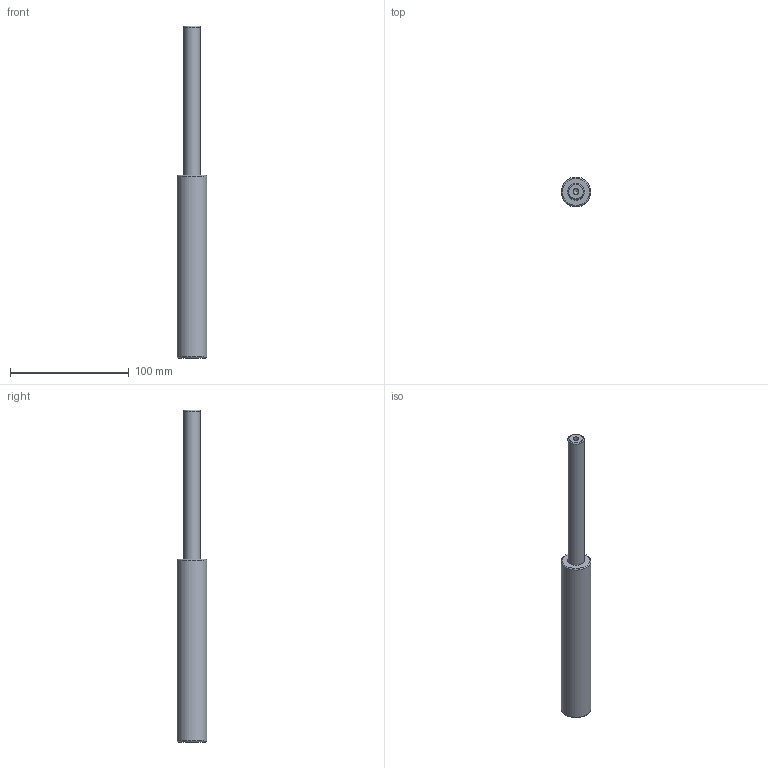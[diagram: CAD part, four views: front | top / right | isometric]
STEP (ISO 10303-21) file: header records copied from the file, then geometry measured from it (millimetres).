
FILE_DESCRIPTION(/* description */ (''),/* implementation_level */ '2;1');
FILE_NAME(/* name */ 'NV5-SMLX.25x125.stp',/* time_stamp */ '2018-08-31T16:08:38+02:00',/* author */ (''),/* organization */ (''),/* preprocessor_version */ 'ST-DEVELOPER v16',/* originating_system */ 'SIEMENS PLM Software NX 10.0',/* authorisation */ '');
FILE_SCHEMA (('AUTOMOTIVE_DESIGN { 1 0 10303 214 3 1 1 1 }'));
Length unit declared in the file: millimetre
Products named in the file (1): NV5-SMLX.25x125
Bounding box: 25 x 25 x 280 mm (x, y, z)
Volume: 94496.9 mm3; surface area: 18883.1 mm2
Topology: 1 solids, 1 shells, 12 faces, 24 edges, 15 vertices
Faces by surface type: cylinder 4, torus 3, plane 3, cone 2
Full cylindrical faces by diameter (mm): 5 x2, 14 x1, 25 x1
Entity records: 266 total; most frequent: DIRECTION 48, CARTESIAN_POINT 37, FACE_BOUND 24, AXIS2_PLACEMENT_3D 24, EDGE_LOOP 22, ORIENTED_EDGE 22, VERTEX_POINT 13, ADVANCED_FACE 12
